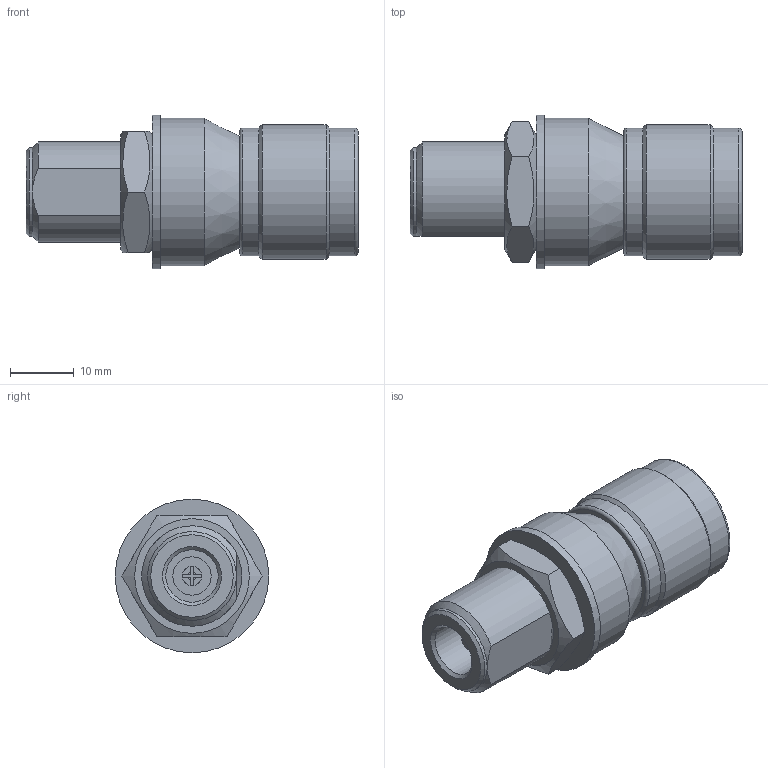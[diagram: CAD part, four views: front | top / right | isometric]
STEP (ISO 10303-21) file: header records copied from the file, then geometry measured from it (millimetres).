
FILE_DESCRIPTION(/* description */ (''),/* implementation_level */ '2;1');
FILE_NAME(/* name */ 'K:\PROJEKTY ROZPRACOVANÉ\MODELY DO KATALOGU\KO\3D - STEP\KO-6GN (F_M).stp',/* time_stamp */ '2020-12-03T11:54:50+01:00',/* author */ ('M Koliska'),/* organization */ (''),/* preprocessor_version */ 'ST-DEVELOPER v18.1',/* originating_system */ 'Autodesk Inventor 2021',/* authorisation */ '');
FILE_SCHEMA (('AUTOMOTIVE_DESIGN { 1 0 10303 214 3 1 1 }'));
Length unit declared in the file: millimetre
Products named in the file (4): KO-6GN (F_M); KO-6GN (F_M)_1; MATICE KO; PODLOŽKA
Assembly tree (3 placements, depth 2):
  KO-6GN (F_M)
    KO-6GN (F_M)_1
    MATICE KO
    PODLOŽKA
Bounding box: 51.9 x 24 x 24 mm (x, y, z)
Volume: 13361.8 mm3; surface area: 6600.9 mm2
Topology: 3 solids, 3 shells, 90 faces, 205 edges, 132 vertices
Faces by surface type: plane 48, cylinder 27, cone 12, torus 3
Full cylindrical faces by diameter (mm): 3 x2, 6 x1, 8.2 x1, 13.835 x1, 13.9 x1, 15 x1, 16.3 x1, 18 x1, 20 x2, 21 x1, 23 x1, 24 x1
Entity records: 2722 total; most frequent: DIRECTION 464, CARTESIAN_POINT 461, ORIENTED_EDGE 408, EDGE_CURVE 204, AXIS2_PLACEMENT_3D 177, VERTEX_POINT 132, LINE 110, VECTOR 110
